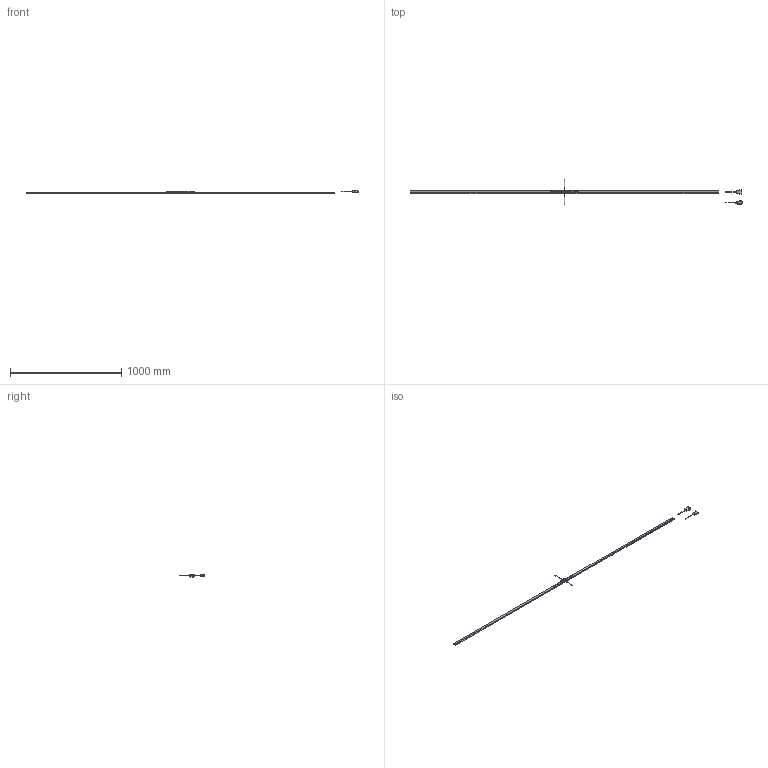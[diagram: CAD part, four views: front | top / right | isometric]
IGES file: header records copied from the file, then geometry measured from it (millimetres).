
Start section: Elysium IGES Interface
Global section: file name: 78H\\Utsu119s\kiyo_cad\data\3D\ST700_小型\HP掲載用_201802\PKG\ABS_ST700-2700A.igs; native system: Creo Elements/Direct Modeling 18.1B  29-Sep-2012; preprocessor: Creo Element/Direct IGES_3D V2.2; author: Unknown; organization: Unknown; date: 20180214.125636; units: millimetre
Bounding box: 2989.3 x 227.7 x 23.3 mm (x, y, z)
Volume: 600064.5 mm3; surface area: 221168 mm2
Topology: 7 solids, 7 shells, 6800 faces, 18581 edges, 12223 vertices
Faces by surface type: bspline 6800
